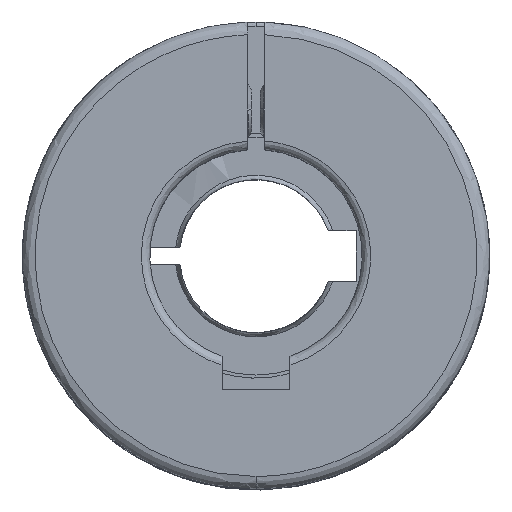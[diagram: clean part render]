
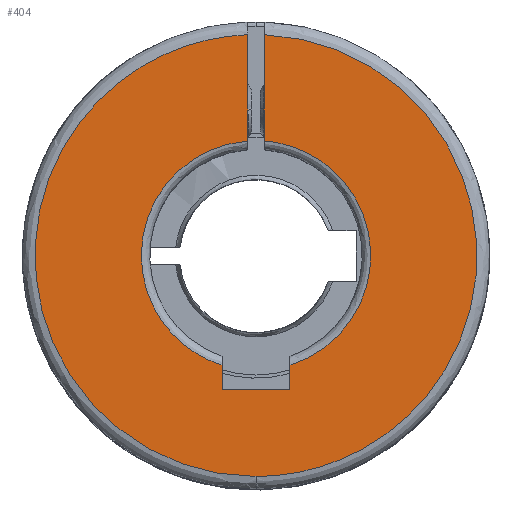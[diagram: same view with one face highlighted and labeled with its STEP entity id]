
A CAD part, top view. The second image highlights one B-rep face of the part: STEP entity #404.
In plain terms, the highlighted planar face has unit normal (0, 0, 1).
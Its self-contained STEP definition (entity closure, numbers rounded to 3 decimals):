
#282 = VERTEX_POINT ( 'NONE', #3966 ) ;
#283 = EDGE_CURVE ( 'NONE', #806, #282, #4015, .T. ) ;
#348 = ORIENTED_EDGE ( 'NONE', *, *, #872, .F. ) ;
#355 = ORIENTED_EDGE ( 'NONE', *, *, #283, .F. ) ;
#373 = ORIENTED_EDGE ( 'NONE', *, *, #418, .F. ) ;
#378 = VERTEX_POINT ( 'NONE', #4149 ) ;
#379 = VERTEX_POINT ( 'NONE', #4207 ) ;
#393 = ORIENTED_EDGE ( 'NONE', *, *, #396, .F. ) ;
#395 = ORIENTED_EDGE ( 'NONE', *, *, #865, .F. ) ;
#396 = EDGE_CURVE ( 'NONE', #378, #866, #4220, .T. ) ;
#399 = ORIENTED_EDGE ( 'NONE', *, *, #853, .F. ) ;
#400 = EDGE_CURVE ( 'NONE', #282, #379, #4211, .T. ) ;
#401 = ORIENTED_EDGE ( 'NONE', *, *, #400, .F. ) ;
#403 = EDGE_LOOP ( 'NONE', ( #401, #355, #348, #399, #395, #393, #373, #417, #412 ) ) ;
#404 = ADVANCED_FACE ( 'NONE', ( #4214 ), #4213, .F. ) ;
#412 = ORIENTED_EDGE ( 'NONE', *, *, #413, .F. ) ;
#413 = EDGE_CURVE ( 'NONE', #379, #414, #4238, .T. ) ;
#414 = VERTEX_POINT ( 'NONE', #4234 ) ;
#417 = ORIENTED_EDGE ( 'NONE', *, *, #422, .F. ) ;
#418 = EDGE_CURVE ( 'NONE', #420, #378, #4232, .T. ) ;
#420 = VERTEX_POINT ( 'NONE', #4252 ) ;
#422 = EDGE_CURVE ( 'NONE', #414, #420, #4296, .T. ) ;
#806 = VERTEX_POINT ( 'NONE', #5391 ) ;
#853 = EDGE_CURVE ( 'NONE', #878, #870, #5568, .T. ) ;
#865 = EDGE_CURVE ( 'NONE', #866, #878, #5619, .T. ) ;
#866 = VERTEX_POINT ( 'NONE', #5682 ) ;
#870 = VERTEX_POINT ( 'NONE', #5668 ) ;
#872 = EDGE_CURVE ( 'NONE', #870, #806, #5662, .T. ) ;
#878 = VERTEX_POINT ( 'NONE', #5726 ) ;
#3966 = CARTESIAN_POINT ( 'NONE',  ( -2.172, 17.137, 42.541 ) ) ;
#4012 = DIRECTION ( 'NONE',  ( 0., -1., 0. ) ) ;
#4013 = VECTOR ( 'NONE', #4012, 1000. ) ;
#4014 = CARTESIAN_POINT ( 'NONE',  ( -2.172, 3.674, 42.541 ) ) ;
#4015 = LINE ( 'NONE', #4014, #4013 ) ;
#4149 = CARTESIAN_POINT ( 'NONE',  ( 2.828, -9.22, 42.541 ) ) ;
#4207 = CARTESIAN_POINT ( 'NONE',  ( -5.172, -9.22, 42.541 ) ) ;
#4208 = CARTESIAN_POINT ( 'NONE',  ( -21.442, 15.706, 42.541 ) ) ;
#4210 = CARTESIAN_POINT ( 'NONE',  ( -2.172, 17.137, 42.541 ) ) ;
#4211 =( BOUNDED_CURVE ( )  B_SPLINE_CURVE ( 3, ( #4210, #4208, #4251, #4250 ),
 .UNSPECIFIED., .F., .T. ) 
 B_SPLINE_CURVE_WITH_KNOTS ( ( 4, 4 ),
 ( 0., 1. ),
 .UNSPECIFIED. ) 
 CURVE ( )  GEOMETRIC_REPRESENTATION_ITEM ( )  RATIONAL_B_SPLINE_CURVE ( ( 1., 0.458, 0.458, 1. ) ) 
 REPRESENTATION_ITEM ( '' )  );
#4213 = PLANE ( 'NONE',  #4249 ) ;
#4214 = FACE_OUTER_BOUND ( 'NONE', #403, .T. ) ;
#4215 = CARTESIAN_POINT ( 'NONE',  ( -0.172, 17.137, 42.541 ) ) ;
#4217 = CARTESIAN_POINT ( 'NONE',  ( 19.099, 15.706, 42.541 ) ) ;
#4218 = CARTESIAN_POINT ( 'NONE',  ( 21.284, -3.494, 42.541 ) ) ;
#4219 = CARTESIAN_POINT ( 'NONE',  ( 2.828, -9.22, 42.541 ) ) ;
#4220 =( BOUNDED_CURVE ( )  B_SPLINE_CURVE ( 3, ( #4219, #4218, #4217, #4215 ),
 .UNSPECIFIED., .F., .T. ) 
 B_SPLINE_CURVE_WITH_KNOTS ( ( 4, 4 ),
 ( 0., 1. ),
 .UNSPECIFIED. ) 
 CURVE ( )  GEOMETRIC_REPRESENTATION_ITEM ( )  RATIONAL_B_SPLINE_CURVE ( ( 1., 0.458, 0.458, 1. ) ) 
 REPRESENTATION_ITEM ( '' )  );
#4228 = DIRECTION ( 'NONE',  ( 0., 1., 0. ) ) ;
#4229 = VECTOR ( 'NONE', #4228, 1000. ) ;
#4230 = CARTESIAN_POINT ( 'NONE',  ( 2.828, 3.674, 42.541 ) ) ;
#4232 = LINE ( 'NONE', #4230, #4229 ) ;
#4234 = CARTESIAN_POINT ( 'NONE',  ( -5.172, -12.126, 42.541 ) ) ;
#4235 = DIRECTION ( 'NONE',  ( 0., -1., 0. ) ) ;
#4236 = VECTOR ( 'NONE', #4235, 1000. ) ;
#4237 = CARTESIAN_POINT ( 'NONE',  ( -5.172, 3.674, 42.541 ) ) ;
#4238 = LINE ( 'NONE', #4237, #4236 ) ;
#4246 = DIRECTION ( 'NONE',  ( 0., 1., 0. ) ) ;
#4247 = DIRECTION ( 'NONE',  ( 0., 0., -1. ) ) ;
#4248 = CARTESIAN_POINT ( 'NONE',  ( -1.172, 3.674, 42.541 ) ) ;
#4249 = AXIS2_PLACEMENT_3D ( 'NONE', #4248, #4247, #4246 ) ;
#4250 = CARTESIAN_POINT ( 'NONE',  ( -5.172, -9.22, 42.541 ) ) ;
#4251 = CARTESIAN_POINT ( 'NONE',  ( -23.628, -3.494, 42.541 ) ) ;
#4252 = CARTESIAN_POINT ( 'NONE',  ( 2.828, -12.126, 42.541 ) ) ;
#4293 = DIRECTION ( 'NONE',  ( 1., 0., 0. ) ) ;
#4294 = VECTOR ( 'NONE', #4293, 1000. ) ;
#4295 = CARTESIAN_POINT ( 'NONE',  ( -1.172, -12.126, 42.541 ) ) ;
#4296 = LINE ( 'NONE', #4295, #4294 ) ;
#5391 = CARTESIAN_POINT ( 'NONE',  ( -2.172, 29.655, 42.541 ) ) ;
#5568 =( BOUNDED_CURVE ( )  B_SPLINE_CURVE ( 3, ( #5605, #5604, #5603, #5602 ),
 .UNSPECIFIED., .F., .T. ) 
 B_SPLINE_CURVE_WITH_KNOTS ( ( 4, 4 ),
 ( 0., 1. ),
 .UNSPECIFIED. ) 
 CURVE ( )  GEOMETRIC_REPRESENTATION_ITEM ( )  RATIONAL_B_SPLINE_CURVE ( ( 1., 0.346, 0.346, 1. ) ) 
 REPRESENTATION_ITEM ( '' )  );
#5602 = CARTESIAN_POINT ( 'NONE',  ( -1.172, -22.326, 42.541 ) ) ;
#5603 = CARTESIAN_POINT ( 'NONE',  ( 48.893, -22.326, 42.541 ) ) ;
#5604 = CARTESIAN_POINT ( 'NONE',  ( 49.856, 27.729, 42.541 ) ) ;
#5605 = CARTESIAN_POINT ( 'NONE',  ( -0.172, 29.655, 42.541 ) ) ;
#5619 = LINE ( 'NONE', #5686, #5685 ) ;
#5658 = CARTESIAN_POINT ( 'NONE',  ( -2.172, 29.655, 42.541 ) ) ;
#5659 = CARTESIAN_POINT ( 'NONE',  ( -52.199, 27.729, 42.541 ) ) ;
#5660 = CARTESIAN_POINT ( 'NONE',  ( -51.236, -22.326, 42.541 ) ) ;
#5661 = CARTESIAN_POINT ( 'NONE',  ( -1.172, -22.326, 42.541 ) ) ;
#5662 =( BOUNDED_CURVE ( )  B_SPLINE_CURVE ( 3, ( #5661, #5660, #5659, #5658 ),
 .UNSPECIFIED., .F., .F. ) 
 B_SPLINE_CURVE_WITH_KNOTS ( ( 4, 4 ),
 ( 0., 1. ),
 .UNSPECIFIED. ) 
 CURVE ( )  GEOMETRIC_REPRESENTATION_ITEM ( )  RATIONAL_B_SPLINE_CURVE ( ( 1., 0.346, 0.346, 1. ) ) 
 REPRESENTATION_ITEM ( '' )  );
#5668 = CARTESIAN_POINT ( 'NONE',  ( -1.172, -22.326, 42.541 ) ) ;
#5682 = CARTESIAN_POINT ( 'NONE',  ( -0.172, 17.137, 42.541 ) ) ;
#5684 = DIRECTION ( 'NONE',  ( 0., 1., 0. ) ) ;
#5685 = VECTOR ( 'NONE', #5684, 1000. ) ;
#5686 = CARTESIAN_POINT ( 'NONE',  ( -0.172, 3.674, 42.541 ) ) ;
#5726 = CARTESIAN_POINT ( 'NONE',  ( -0.172, 29.655, 42.541 ) ) ;
